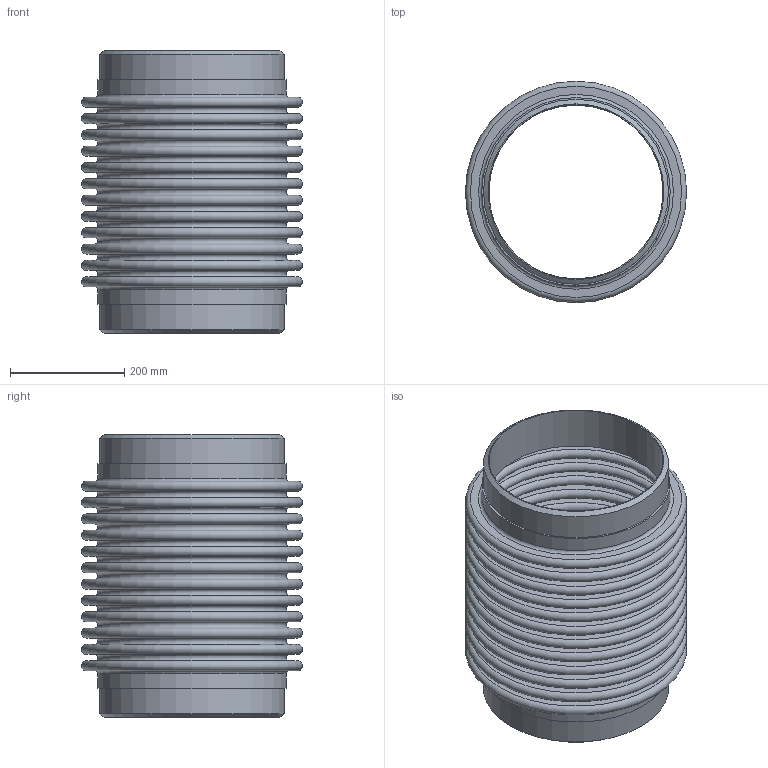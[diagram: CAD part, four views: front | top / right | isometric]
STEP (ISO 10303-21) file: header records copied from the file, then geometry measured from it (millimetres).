
FILE_DESCRIPTION(/* description */ ('EXPANSION JOINT,SINGLE, WELD ENDS,4 INCH NOMINAL'),/* implementation_level */ '2;1');
FILE_NAME(/* name */ 'ASSEMBLY US-12-12-300L.stp',/* time_stamp */ '2026-07-29T15:35:28-05:00',/* author */ ('jorgef'),/* organization */ (''),/* preprocessor_version */ 'ST-DEVELOPER v20.1',/* originating_system */ 'Autodesk Inventor 2026',/* authorisation */ '');
FILE_SCHEMA (('AUTOMOTIVE_DESIGN { 1 0 10303 214 3 1 1 }'));
Length unit declared in the file: inch
Products named in the file (3): ASSEMBLY  US-12-12-300L; STOCK BELLOW - US-12-12-300L; PIPE- US-12-12-300L
Assembly tree (3 placements, depth 2):
  ASSEMBLY  US-12-12-300L
    STOCK BELLOW - US-12-12-300L
    PIPE- US-12-12-300L  x2
Bounding box: 387.35 x 387.35 x 495.3 mm (x, y, z)
Volume: 4556111.5 mm3; surface area: 2429844.9 mm2
Topology: 5 solids, 5 shells, 118 faces, 180 edges, 121 vertices
Faces by surface type: plane 58, torus 50, cylinder 8, cone 2
Full cylindrical faces by diameter (mm): 304.8 x2, 323.85 x4, 329.946 x2
Entity records: 2769 total; most frequent: DIRECTION 573, CARTESIAN_POINT 405, ORIENTED_EDGE 342, AXIS2_PLACEMENT_3D 283, EDGE_CURVE 171, EDGE_LOOP 169, CIRCLE 164, VERTEX_POINT 114
